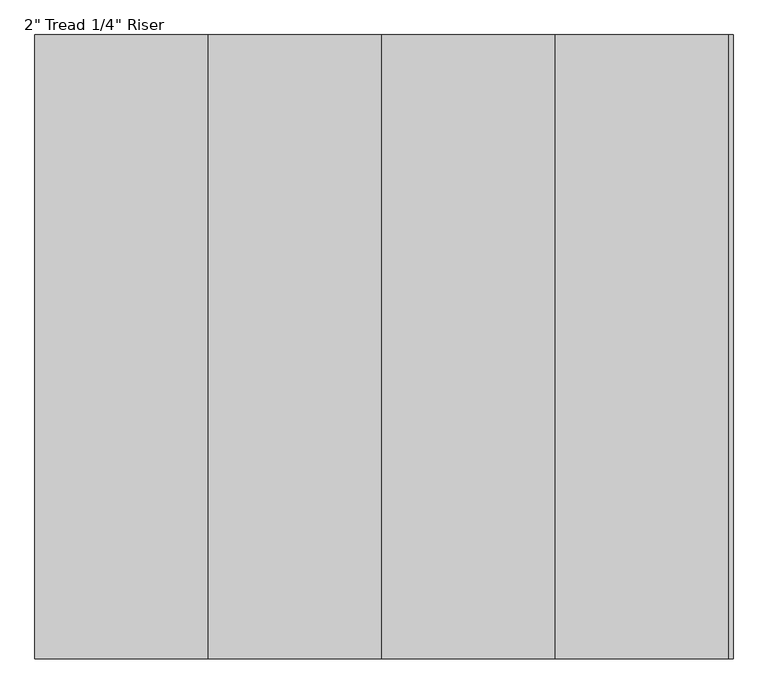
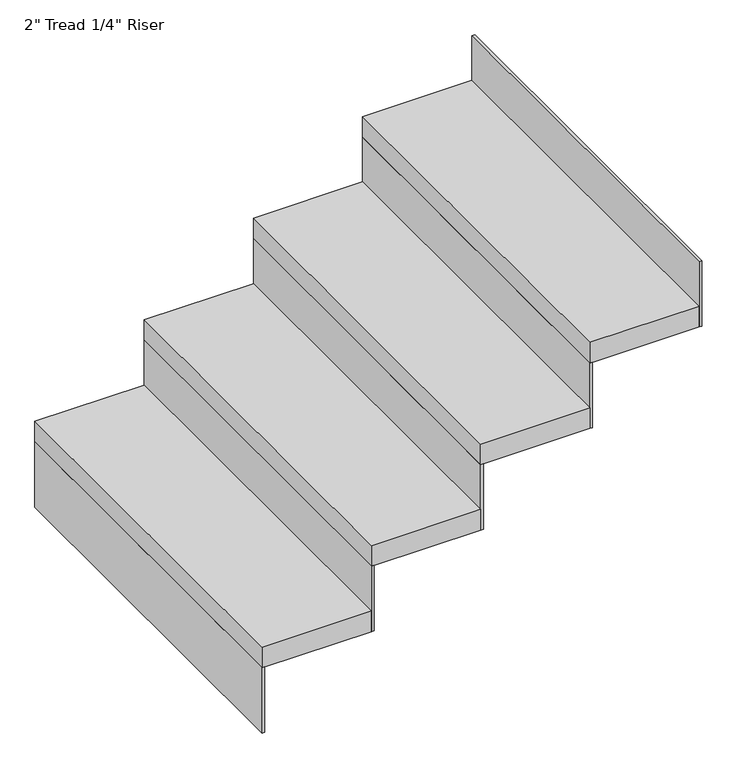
"""IFC4 building model written with IfcOpenShell, lengths in millimetres: stair flight geometry."""

from ifc_helpers import new_model, si_unit, frame, origin, place, context, project, spatial, polyline, outline, extrude, source, transform, mapped, element, save


def stair_flight_f84f33cc(model_context):
    return source(origin(), model_context, "Body", "SweptSolid", [
        extrude(outline(polyline([(139702.0884933, -35524.5173894), (139695.7384933, -35524.5173894), (139695.7384933, -34610.1173894), (139702.0884933, -34610.1173894), (139702.0884933, -35524.5173894)])), frame((0.0, 0.0, 2195.0947368), z_axis=(0.0, 0.0, 1.0), x_axis=(1.0, 0.0, 0.0)), (0.0, 0.0, 1.0), 160.4210526),
        extrude(outline(polyline([(139949.7384933, -34610.1173894), (139949.7384933, -35524.5173894), (139695.7384933, -35524.5173894), (139695.7384933, -34610.1173894), (139949.7384933, -34610.1173894)])), frame((0.0, 0.0, 2355.5157895), z_axis=(0.0, 0.0, 1.0), x_axis=(1.0, 0.0, 0.0)), (0.0, 0.0, 1.0), 50.8),
        extrude(outline(polyline([(139956.0884933, -35524.5173894), (139949.7384933, -35524.5173894), (139949.7384933, -34610.1173894), (139956.0884933, -34610.1173894), (139956.0884933, -35524.5173894)])), frame((0.0, 0.0, 2355.5157895), z_axis=(0.0, 0.0, 1.0), x_axis=(1.0, 0.0, 0.0)), (0.0, 0.0, 1.0), 160.4210526),
        extrude(outline(polyline([(140203.7384933, -34610.1173894), (140203.7384933, -35524.5173894), (139949.7384933, -35524.5173894), (139949.7384933, -34610.1173894), (140203.7384933, -34610.1173894)])), frame((0.0, 0.0, 2515.9368421), z_axis=(0.0, 0.0, 1.0), x_axis=(1.0, 0.0, 0.0)), (0.0, 0.0, 1.0), 50.8),
        extrude(outline(polyline([(140210.0884933, -35524.5173894), (140203.7384933, -35524.5173894), (140203.7384933, -34610.1173894), (140210.0884933, -34610.1173894), (140210.0884933, -35524.5173894)])), frame((0.0, 0.0, 2515.9368421), z_axis=(0.0, 0.0, 1.0), x_axis=(1.0, 0.0, 0.0)), (0.0, 0.0, 1.0), 160.4210526),
        extrude(outline(polyline([(140457.7384933, -34610.1173894), (140457.7384933, -35524.5173894), (140203.7384933, -35524.5173894), (140203.7384933, -34610.1173894), (140457.7384933, -34610.1173894)])), frame((0.0, 0.0, 2676.3578947), z_axis=(0.0, 0.0, 1.0), x_axis=(1.0, 0.0, 0.0)), (0.0, 0.0, 1.0), 50.8),
        extrude(outline(polyline([(140464.0884933, -35524.5173894), (140457.7384933, -35524.5173894), (140457.7384933, -34610.1173894), (140464.0884933, -34610.1173894), (140464.0884933, -35524.5173894)])), frame((0.0, 0.0, 2676.3578947), z_axis=(0.0, 0.0, 1.0), x_axis=(1.0, 0.0, 0.0)), (0.0, 0.0, 1.0), 160.4210526),
        extrude(outline(polyline([(140718.0884933, -35524.5173894), (140711.7384933, -35524.5173894), (140711.7384933, -34610.1173894), (140718.0884933, -34610.1173894), (140718.0884933, -35524.5173894)])), frame((0.0, 0.0, 2836.7789474), z_axis=(0.0, 0.0, 1.0), x_axis=(1.0, 0.0, 0.0)), (0.0, 0.0, 1.0), 160.4210526),
        extrude(outline(polyline([(140711.7384933, -34610.1173894), (140711.7384933, -35524.5173894), (140457.7384933, -35524.5173894), (140457.7384933, -34610.1173894), (140711.7384933, -34610.1173894)])), frame((0.0, 0.0, 2836.7789474), z_axis=(0.0, 0.0, 1.0), x_axis=(1.0, 0.0, 0.0)), (0.0, 0.0, 1.0), 50.8),
    ])


if __name__ == "__main__":
    model = new_model("IFC4")
    model_context = context("Model", 3, world=origin())
    ifc_project = project(units=[si_unit("LENGTHUNIT", "METRE", prefix="MILLI")], contexts=[model_context])
    site = spatial("IfcSite", under=ifc_project)
    building = spatial("IfcBuilding", under=site)
    placement = place(None, origin())
    stair_flight_shape = stair_flight_f84f33cc(model_context)
    element("IfcStairFlight", 1, ObjectType="2\" Tread 1/4\" Riser", at=placement, inside=building, context=model_context, shape_type="MappedRepresentation", body=[
        mapped(stair_flight_shape, transform((0.0, 0.0, 0.0), x_axis=(1.0, 0.0, 0.0), y_axis=(0.0, 1.0, 0.0), z_axis=(0.0, 0.0, 1.0))),
    ])
    save(model, "model.ifc")
